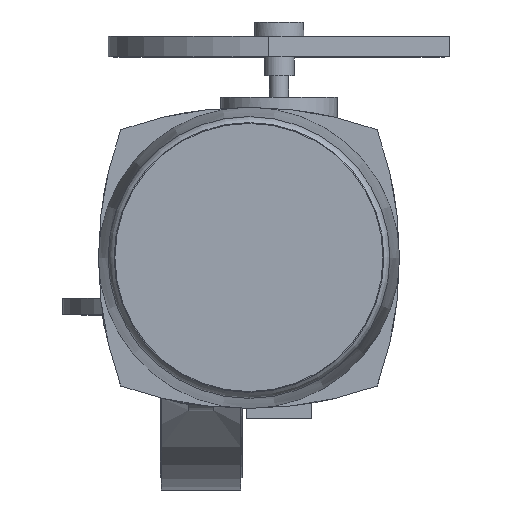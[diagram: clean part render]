
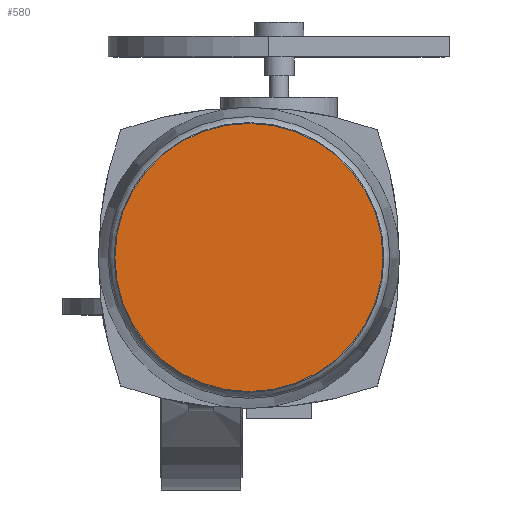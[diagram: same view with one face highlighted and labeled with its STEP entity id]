
A CAD part, top view. The second image highlights one B-rep face of the part: STEP entity #580.
In plain terms, the highlighted planar face has unit normal (0, 0, 1).
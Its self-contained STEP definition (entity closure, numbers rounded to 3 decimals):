
#580=ADVANCED_FACE('',(#7005),#7007,.T.);
#7005=FACE_BOUND('',#7006,.T.);
#7006=EDGE_LOOP('',(#12417));
#7007=PLANE('',#7008);
#7008=AXIS2_PLACEMENT_3D('',#7009,#7010,#7011);
#7009=CARTESIAN_POINT('',(35.,35.,543.));
#7010=DIRECTION('',(0.,0.,1.));
#7011=DIRECTION('',(0.,1.,0.));
#12417=ORIENTED_EDGE('',*,*,#16364,.F.);
#16364=EDGE_CURVE('',#18516,#18516,#18517,.F.);
#18516=VERTEX_POINT('',#22340);
#18517=CIRCLE('',#22341,98.019);
#22340=CARTESIAN_POINT('',(-63.019,35.,543.));
#22341=AXIS2_PLACEMENT_3D('',#22342,#22343,#22344);
#22342=CARTESIAN_POINT('',(35.,35.,543.));
#22343=DIRECTION('',(0.,0.,1.));
#22344=DIRECTION('',(-1.,0.,0.));
